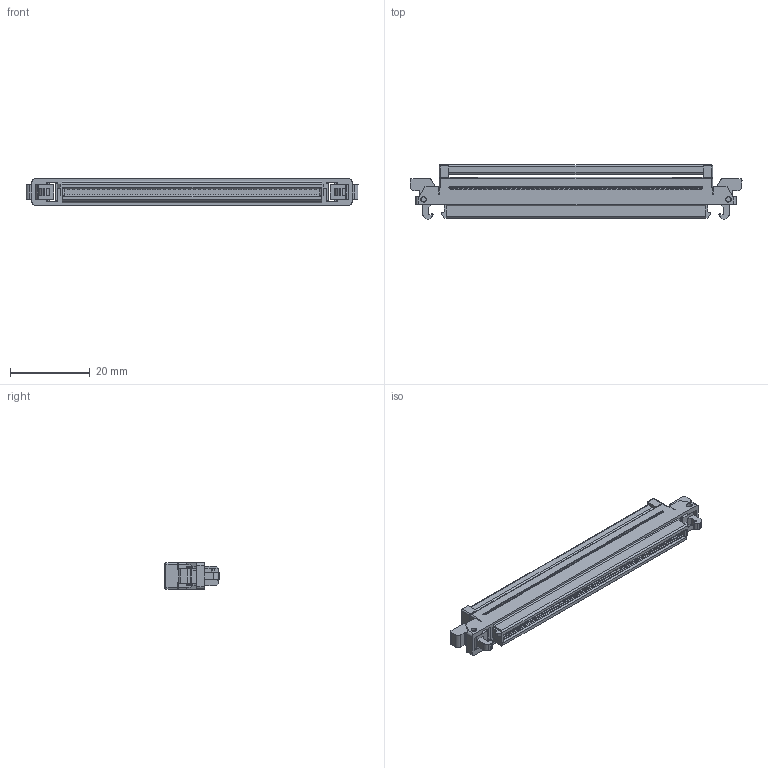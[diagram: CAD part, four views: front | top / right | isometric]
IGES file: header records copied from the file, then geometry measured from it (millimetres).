
Global section: file name: Q:\us254833\2008 Jobs\Neu_P25LE-100_3D_Model_wr\P25LE-100S-DA_iges.igs; native system: NX V5.0; preprocessor: UGS NX IGES V5.0; date: 20080602.135817; units: millimetre
Bounding box: 83.44 x 13.7 x 6.6 mm (x, y, z)
Surface area: 5722.3 mm2 (no closed solid volume)
Topology: 0 solids, 0 shells, 4737 faces, 29536 edges, 29528 vertices
Faces by surface type: bspline 4737
